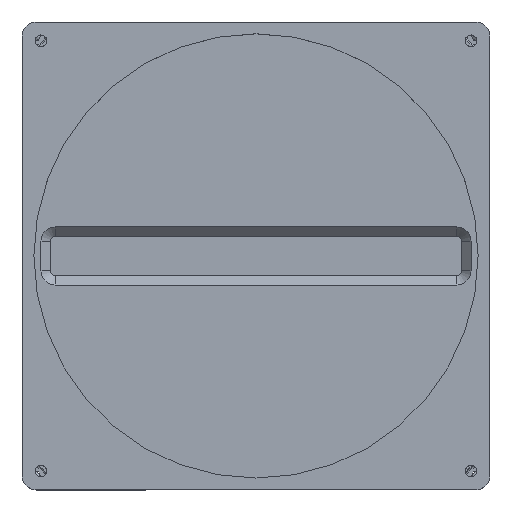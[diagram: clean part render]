
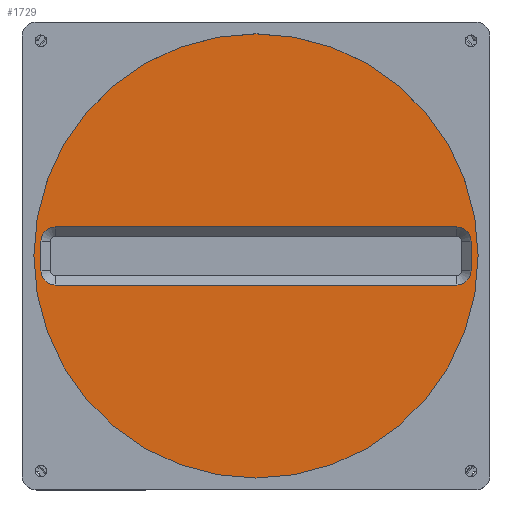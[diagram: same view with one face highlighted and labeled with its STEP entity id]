
A CAD part, top view. The second image highlights one B-rep face of the part: STEP entity #1729.
In plain terms, the highlighted planar face has unit normal (0, 0, 1).
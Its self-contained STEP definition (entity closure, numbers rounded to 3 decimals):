
#1729 = ADVANCED_FACE ( 'NONE', ( #5957, #27624 ), #39376, .F. ) ;
#1787 = CARTESIAN_POINT ( 'NONE',  ( 0., -6.15, 6.97 ) ) ;
#2127 = CIRCLE ( 'NONE', #11695, 3. ) ;
#2174 = CIRCLE ( 'NONE', #42072, 48. ) ;
#2230 = DIRECTION ( 'NONE',  ( 0., 0., -1. ) ) ;
#2673 = LINE ( 'NONE', #2702, #21528 ) ;
#2694 = ORIENTED_EDGE ( 'NONE', *, *, #4603, .T. ) ;
#2702 = CARTESIAN_POINT ( 'NONE',  ( -45.5, 0., 6.97 ) ) ;
#3796 = CARTESIAN_POINT ( 'NONE',  ( -45.5, -3.15, 6.97 ) ) ;
#4603 = EDGE_CURVE ( 'NONE', #8430, #39631, #31452, .T. ) ;
#5359 = CARTESIAN_POINT ( 'NONE',  ( -42.5, -6.15, 6.97 ) ) ;
#5668 = VERTEX_POINT ( 'NONE', #5359 ) ;
#5957 = FACE_BOUND ( 'NONE', #24160, .T. ) ;
#7959 = AXIS2_PLACEMENT_3D ( 'NONE', #17489, #20942, #20628 ) ;
#8430 = VERTEX_POINT ( 'NONE', #22619 ) ;
#8545 = CARTESIAN_POINT ( 'NONE',  ( -42.5, -3.15, 6.97 ) ) ;
#9882 = VERTEX_POINT ( 'NONE', #35471 ) ;
#11605 = CARTESIAN_POINT ( 'NONE',  ( 42.5, 3.15, 6.97 ) ) ;
#11637 = ORIENTED_EDGE ( 'NONE', *, *, #14709, .T. ) ;
#11695 = AXIS2_PLACEMENT_3D ( 'NONE', #8545, #37662, #15617 ) ;
#13350 = DIRECTION ( 'NONE',  ( 0., 0., -1. ) ) ;
#13470 = EDGE_CURVE ( 'NONE', #44980, #5668, #33096, .T. ) ;
#13547 = EDGE_CURVE ( 'NONE', #44413, #40130, #29083, .T. ) ;
#13799 = DIRECTION ( 'NONE',  ( 0., 1., 0. ) ) ;
#14027 = AXIS2_PLACEMENT_3D ( 'NONE', #36129, #25208, #28895 ) ;
#14709 = EDGE_CURVE ( 'NONE', #5668, #23011, #2127, .T. ) ;
#15287 = DIRECTION ( 'NONE',  ( 0., 0., -1. ) ) ;
#15408 = VECTOR ( 'NONE', #33882, 1000. ) ;
#15564 = CARTESIAN_POINT ( 'NONE',  ( 0., 6.15, 6.97 ) ) ;
#15617 = DIRECTION ( 'NONE',  ( -1., 0., 0. ) ) ;
#15827 = CARTESIAN_POINT ( 'NONE',  ( 45.5, 0., 6.97 ) ) ;
#16671 = EDGE_CURVE ( 'NONE', #9882, #38256, #33098, .T. ) ;
#17019 = EDGE_CURVE ( 'NONE', #40130, #44413, #2174, .T. ) ;
#17489 = CARTESIAN_POINT ( 'NONE',  ( 0., 0., 6.97 ) ) ;
#17518 = ORIENTED_EDGE ( 'NONE', *, *, #16671, .T. ) ;
#17673 = VECTOR ( 'NONE', #31008, 1000. ) ;
#18376 = DIRECTION ( 'NONE',  ( 1., 0., 0. ) ) ;
#20628 = DIRECTION ( 'NONE',  ( 1., 0., 0. ) ) ;
#20787 = VERTEX_POINT ( 'NONE', #33620 ) ;
#20942 = DIRECTION ( 'NONE',  ( 0., 0., 1. ) ) ;
#21528 = VECTOR ( 'NONE', #13799, 1000. ) ;
#21655 = EDGE_CURVE ( 'NONE', #39631, #44980, #37311, .T. ) ;
#21681 = DIRECTION ( 'NONE',  ( 0., 0., 1. ) ) ;
#22619 = CARTESIAN_POINT ( 'NONE',  ( 45.5, 3.15, 6.97 ) ) ;
#22692 = DIRECTION ( 'NONE',  ( -1., 0., 0. ) ) ;
#22819 = EDGE_LOOP ( 'NONE', ( #25133, #35287 ) ) ;
#23011 = VERTEX_POINT ( 'NONE', #3796 ) ;
#24160 = EDGE_LOOP ( 'NONE', ( #41205, #17518, #43201, #2694, #43014, #24724, #11637, #28891 ) ) ;
#24724 = ORIENTED_EDGE ( 'NONE', *, *, #13470, .T. ) ;
#25133 = ORIENTED_EDGE ( 'NONE', *, *, #13547, .T. ) ;
#25208 = DIRECTION ( 'NONE',  ( 0., 0., -1. ) ) ;
#25427 = CARTESIAN_POINT ( 'NONE',  ( 42.5, -6.15, 6.97 ) ) ;
#27624 = FACE_OUTER_BOUND ( 'NONE', #22819, .T. ) ;
#27667 = CARTESIAN_POINT ( 'NONE',  ( 42.5, 6.15, 6.97 ) ) ;
#28891 = ORIENTED_EDGE ( 'NONE', *, *, #29659, .T. ) ;
#28895 = DIRECTION ( 'NONE',  ( -1., 0., 0. ) ) ;
#29083 = CIRCLE ( 'NONE', #7959, 48. ) ;
#29353 = CARTESIAN_POINT ( 'NONE',  ( 0., 0., 6.97 ) ) ;
#29659 = EDGE_CURVE ( 'NONE', #23011, #20787, #2673, .T. ) ;
#30848 = VECTOR ( 'NONE', #31083, 1000. ) ;
#31008 = DIRECTION ( 'NONE',  ( -1., 0., 0. ) ) ;
#31083 = DIRECTION ( 'NONE',  ( 0., -1., 0. ) ) ;
#31345 = CIRCLE ( 'NONE', #36186, 3. ) ;
#31452 = LINE ( 'NONE', #15827, #30848 ) ;
#32346 = CARTESIAN_POINT ( 'NONE',  ( 45.5, -3.15, 6.97 ) ) ;
#32365 = AXIS2_PLACEMENT_3D ( 'NONE', #38877, #2230, #39203 ) ;
#33096 = LINE ( 'NONE', #1787, #17673 ) ;
#33098 = LINE ( 'NONE', #15564, #15408 ) ;
#33620 = CARTESIAN_POINT ( 'NONE',  ( -45.5, 3.15, 6.97 ) ) ;
#33775 = CARTESIAN_POINT ( 'NONE',  ( 48., 0., 6.97 ) ) ;
#33882 = DIRECTION ( 'NONE',  ( 1., 0., 0. ) ) ;
#35287 = ORIENTED_EDGE ( 'NONE', *, *, #17019, .T. ) ;
#35368 = DIRECTION ( 'NONE',  ( -1., 0., 0. ) ) ;
#35471 = CARTESIAN_POINT ( 'NONE',  ( -42.5, 6.15, 6.97 ) ) ;
#35635 = EDGE_CURVE ( 'NONE', #20787, #9882, #47177, .T. ) ;
#35681 = CARTESIAN_POINT ( 'NONE',  ( -48., 0., 6.97 ) ) ;
#36129 = CARTESIAN_POINT ( 'NONE',  ( 42.5, -3.15, 6.97 ) ) ;
#36186 = AXIS2_PLACEMENT_3D ( 'NONE', #11605, #15287, #22692 ) ;
#37311 = CIRCLE ( 'NONE', #14027, 3. ) ;
#37662 = DIRECTION ( 'NONE',  ( 0., 0., -1. ) ) ;
#37834 = AXIS2_PLACEMENT_3D ( 'NONE', #46278, #13350, #35368 ) ;
#38256 = VERTEX_POINT ( 'NONE', #27667 ) ;
#38877 = CARTESIAN_POINT ( 'NONE',  ( -42.5, 3.15, 6.97 ) ) ;
#39203 = DIRECTION ( 'NONE',  ( -1., 0., 0. ) ) ;
#39376 = PLANE ( 'NONE',  #37834 ) ;
#39631 = VERTEX_POINT ( 'NONE', #32346 ) ;
#39752 = EDGE_CURVE ( 'NONE', #38256, #8430, #31345, .T. ) ;
#40130 = VERTEX_POINT ( 'NONE', #33775 ) ;
#41205 = ORIENTED_EDGE ( 'NONE', *, *, #35635, .T. ) ;
#42072 = AXIS2_PLACEMENT_3D ( 'NONE', #29353, #21681, #18376 ) ;
#43014 = ORIENTED_EDGE ( 'NONE', *, *, #21655, .T. ) ;
#43201 = ORIENTED_EDGE ( 'NONE', *, *, #39752, .T. ) ;
#44413 = VERTEX_POINT ( 'NONE', #35681 ) ;
#44980 = VERTEX_POINT ( 'NONE', #25427 ) ;
#46278 = CARTESIAN_POINT ( 'NONE',  ( 0., 0., 6.97 ) ) ;
#47177 = CIRCLE ( 'NONE', #32365, 3. ) ;
